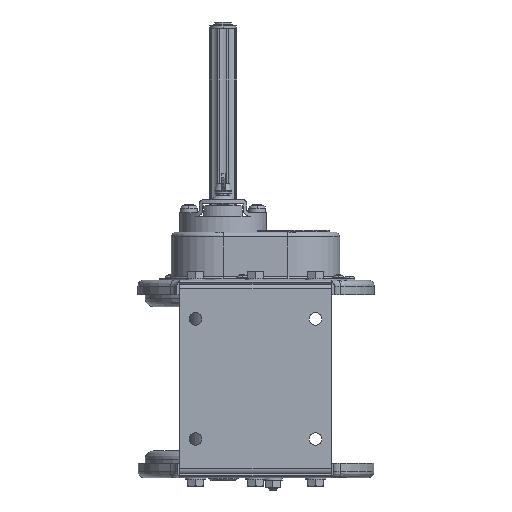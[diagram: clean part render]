
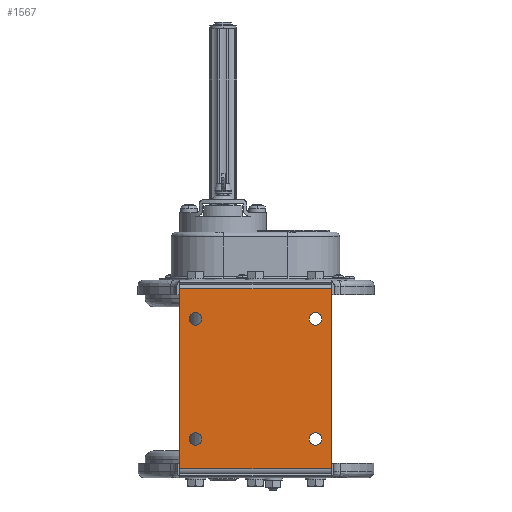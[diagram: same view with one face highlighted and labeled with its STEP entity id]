
A CAD part, front view. The second image highlights one B-rep face of the part: STEP entity #1567.
In plain terms, the highlighted planar face has unit normal (0, -1, 0).
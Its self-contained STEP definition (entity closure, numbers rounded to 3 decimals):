
#1567=ADVANCED_FACE('',(#16931,#16932,#16933,#16934,#16935),#16930,.F.);
#16930=PLANE('',#33434);
#16931=FACE_OUTER_BOUND('',#33435,.T.);
#16932=FACE_BOUND('',#33436,.T.);
#16933=FACE_BOUND('',#33437,.T.);
#16934=FACE_BOUND('',#33438,.T.);
#16935=FACE_BOUND('',#33439,.T.);
#33431=CARTESIAN_POINT('',(-184.621,-15.835,-160.482));
#33432=DIRECTION('',(0.,1.,0.));
#33433=DIRECTION('',(0.,0.,1.));
#33434=AXIS2_PLACEMENT_3D('',#33431,#33432,#33433);
#33435=EDGE_LOOP('',(#47095,#47096,#47097,#47098));
#33436=EDGE_LOOP('',(#47099,#47100));
#33437=EDGE_LOOP('',(#47101,#47102));
#33438=EDGE_LOOP('',(#47103,#47104));
#33439=EDGE_LOOP('',(#47105,#47106));
#47095=ORIENTED_EDGE('',*,*,#54783,.F.);
#47096=ORIENTED_EDGE('',*,*,#54785,.F.);
#47097=ORIENTED_EDGE('',*,*,#54786,.T.);
#47098=ORIENTED_EDGE('',*,*,#54787,.T.);
#47099=ORIENTED_EDGE('',*,*,#54788,.T.);
#47100=ORIENTED_EDGE('',*,*,#54789,.T.);
#47101=ORIENTED_EDGE('',*,*,#54790,.T.);
#47102=ORIENTED_EDGE('',*,*,#54791,.T.);
#47103=ORIENTED_EDGE('',*,*,#54792,.T.);
#47104=ORIENTED_EDGE('',*,*,#54793,.T.);
#47105=ORIENTED_EDGE('',*,*,#54794,.T.);
#47106=ORIENTED_EDGE('',*,*,#54795,.T.);
#54783=EDGE_CURVE('',#84861,#84868,#84869,.T.);
#54785=EDGE_CURVE('',#84881,#84861,#84882,.T.);
#54786=EDGE_CURVE('',#84881,#84888,#84889,.T.);
#54787=EDGE_CURVE('',#84888,#84868,#84895,.T.);
#54788=EDGE_CURVE('',#84901,#84902,#84903,.T.);
#54789=EDGE_CURVE('',#84902,#84901,#84909,.T.);
#54790=EDGE_CURVE('',#84915,#84916,#84917,.T.);
#54791=EDGE_CURVE('',#84916,#84915,#84923,.T.);
#54792=EDGE_CURVE('',#84929,#84930,#84931,.T.);
#54793=EDGE_CURVE('',#84930,#84929,#84937,.T.);
#54794=EDGE_CURVE('',#84943,#84944,#84945,.T.);
#54795=EDGE_CURVE('',#84944,#84943,#84951,.T.);
#84861=VERTEX_POINT('',#110722);
#84868=VERTEX_POINT('',#110727);
#84869=LINE('',#110728,#110729);
#84881=VERTEX_POINT('',#110735);
#84882=LINE('',#110736,#110737);
#84888=VERTEX_POINT('',#110739);
#84889=LINE('',#110740,#110741);
#84895=LINE('',#110743,#110744);
#84901=VERTEX_POINT('',#110746);
#84902=VERTEX_POINT('',#110747);
#84903=CIRCLE('',#110751,5.25);
#84909=CIRCLE('',#110755,5.25);
#84915=VERTEX_POINT('',#110756);
#84916=VERTEX_POINT('',#110757);
#84917=CIRCLE('',#110761,5.25);
#84923=CIRCLE('',#110765,5.25);
#84929=VERTEX_POINT('',#110766);
#84930=VERTEX_POINT('',#110767);
#84931=CIRCLE('',#110771,5.25);
#84937=CIRCLE('',#110775,5.25);
#84943=VERTEX_POINT('',#110776);
#84944=VERTEX_POINT('',#110777);
#84945=CIRCLE('',#110781,5.25);
#84951=CIRCLE('',#110785,5.25);
#110722=CARTESIAN_POINT('',(-48.621,-15.835,-150.482));
#110727=CARTESIAN_POINT('',(-174.621,-15.835,-150.482));
#110728=CARTESIAN_POINT('',(-48.621,-15.835,-150.482));
#110729=VECTOR('',#110730,126.);
#110730=DIRECTION('',(-1.,0.,0.));
#110735=CARTESIAN_POINT('',(-48.621,-15.835,-0.482));
#110736=CARTESIAN_POINT('',(-48.621,-15.835,-0.482));
#110737=VECTOR('',#110738,150.);
#110738=DIRECTION('',(0.,0.,-1.));
#110739=CARTESIAN_POINT('',(-174.621,-15.835,-0.482));
#110740=CARTESIAN_POINT('',(-48.621,-15.835,-0.482));
#110741=VECTOR('',#110742,126.);
#110742=DIRECTION('',(-1.,0.,0.));
#110743=CARTESIAN_POINT('',(-174.621,-15.835,-0.482));
#110744=VECTOR('',#110745,150.);
#110745=DIRECTION('',(0.,0.,-1.));
#110746=CARTESIAN_POINT('',(-161.621,-15.835,-120.232));
#110747=CARTESIAN_POINT('',(-161.621,-15.835,-130.732));
#110748=CARTESIAN_POINT('',(-161.621,-15.835,-125.482));
#110749=DIRECTION('',(0.,1.,0.));
#110750=DIRECTION('',(0.,0.,1.));
#110751=AXIS2_PLACEMENT_3D('',#110748,#110749,#110750);
#110752=CARTESIAN_POINT('',(-161.621,-15.835,-125.482));
#110753=DIRECTION('',(0.,1.,0.));
#110754=DIRECTION('',(0.,0.,1.));
#110755=AXIS2_PLACEMENT_3D('',#110752,#110753,#110754);
#110756=CARTESIAN_POINT('',(-61.621,-15.835,-120.232));
#110757=CARTESIAN_POINT('',(-61.621,-15.835,-130.732));
#110758=CARTESIAN_POINT('',(-61.621,-15.835,-125.482));
#110759=DIRECTION('',(0.,1.,0.));
#110760=DIRECTION('',(0.,0.,1.));
#110761=AXIS2_PLACEMENT_3D('',#110758,#110759,#110760);
#110762=CARTESIAN_POINT('',(-61.621,-15.835,-125.482));
#110763=DIRECTION('',(0.,1.,0.));
#110764=DIRECTION('',(0.,0.,1.));
#110765=AXIS2_PLACEMENT_3D('',#110762,#110763,#110764);
#110766=CARTESIAN_POINT('',(-61.621,-15.835,-20.232));
#110767=CARTESIAN_POINT('',(-61.621,-15.835,-30.732));
#110768=CARTESIAN_POINT('',(-61.621,-15.835,-25.482));
#110769=DIRECTION('',(0.,1.,0.));
#110770=DIRECTION('',(0.,0.,1.));
#110771=AXIS2_PLACEMENT_3D('',#110768,#110769,#110770);
#110772=CARTESIAN_POINT('',(-61.621,-15.835,-25.482));
#110773=DIRECTION('',(0.,1.,0.));
#110774=DIRECTION('',(0.,0.,1.));
#110775=AXIS2_PLACEMENT_3D('',#110772,#110773,#110774);
#110776=CARTESIAN_POINT('',(-161.621,-15.835,-20.232));
#110777=CARTESIAN_POINT('',(-161.621,-15.835,-30.732));
#110778=CARTESIAN_POINT('',(-161.621,-15.835,-25.482));
#110779=DIRECTION('',(0.,1.,0.));
#110780=DIRECTION('',(0.,0.,1.));
#110781=AXIS2_PLACEMENT_3D('',#110778,#110779,#110780);
#110782=CARTESIAN_POINT('',(-161.621,-15.835,-25.482));
#110783=DIRECTION('',(0.,1.,0.));
#110784=DIRECTION('',(0.,0.,1.));
#110785=AXIS2_PLACEMENT_3D('',#110782,#110783,#110784);
